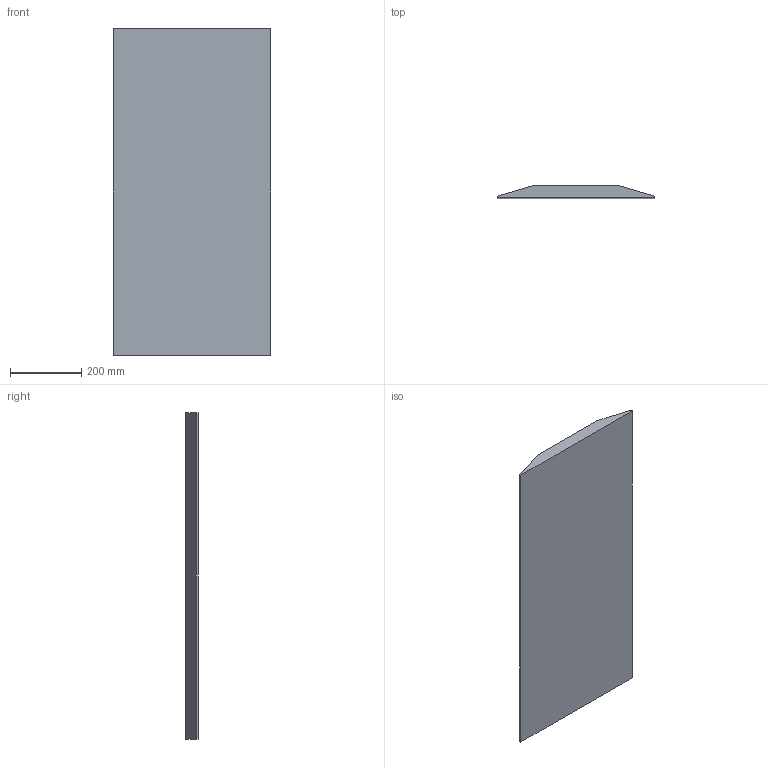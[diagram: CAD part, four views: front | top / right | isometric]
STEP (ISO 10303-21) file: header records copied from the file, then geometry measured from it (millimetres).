
FILE_DESCRIPTION (( 'STEP AP214' ), '1' );
FILE_NAME ('BL3-19.STEP', '2024-09-20T12:55:44', ( '' ), ( '' ), 'SwSTEP 2.0', 'SolidWorks 2024', '' );
FILE_SCHEMA (( 'AUTOMOTIVE_DESIGN' ));
Length unit declared in the file: millimetre
Products named in the file (1): BL3-19
Bounding box: 443 x 35 x 920 mm (x, y, z)
Volume: 11419116.4 mm3; surface area: 867363 mm2
Topology: 1 solids, 1 shells, 78 faces, 201 edges, 134 vertices
Faces by surface type: plane 48, bspline 30
Entity records: 3896 total; most frequent: CARTESIAN_POINT 2172, ORIENTED_EDGE 402, DIRECTION 239, EDGE_CURVE 201, VECTOR 141, LINE 141, VERTEX_POINT 134, EDGE_LOOP 87
